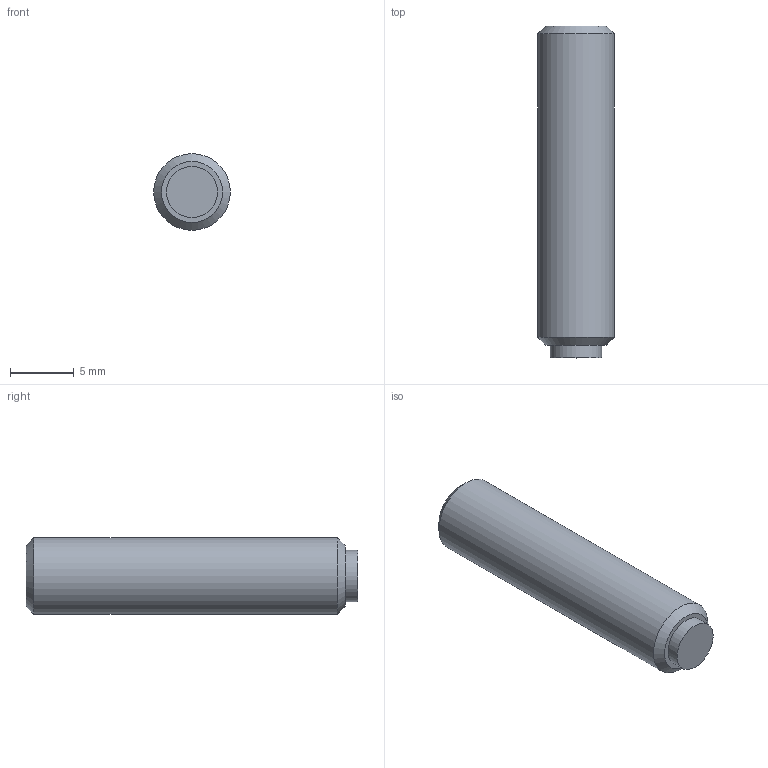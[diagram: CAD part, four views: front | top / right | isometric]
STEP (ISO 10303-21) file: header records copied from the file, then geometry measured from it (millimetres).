
FILE_DESCRIPTION( ( 'STEP AP203' ), '1' );
FILE_NAME( 'C:/Temp/Ganter_Step_05_03_2020/data/3_2/gn913_3/Grub screw GN 913.3-M6-25-MS.stp', '2020-03-13T05:35:48', ( 'License CC BY-ND 4.0' ), ( 'CADENAS' ), ' ', 'PARTsolutions', ' ' );
FILE_SCHEMA( ( 'CONFIG_CONTROL_DESIGN' ) );
Length unit declared in the file: millimetre
Products named in the file (1): _Grub screw GN 913.3-M6-25-MS
Bounding box: 6 x 26 x 6 mm (x, y, z)
Volume: 685.5 mm3; surface area: 562.2 mm2
Topology: 1 solids, 1 shells, 14 faces, 28 edges, 18 vertices
Faces by surface type: plane 10, cylinder 2, cone 2
Full cylindrical faces by diameter (mm): 4 x1, 6 x1
Entity records: 386 total; most frequent: DIRECTION 60, CARTESIAN_POINT 57, ORIENTED_EDGE 48, EDGE_CURVE 24, AXIS2_PLACEMENT_3D 21, EDGE_LOOP 20, VERTEX_POINT 18, LINE 18
